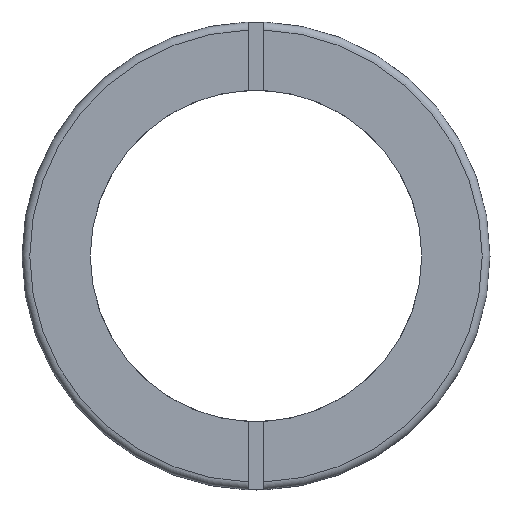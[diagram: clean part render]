
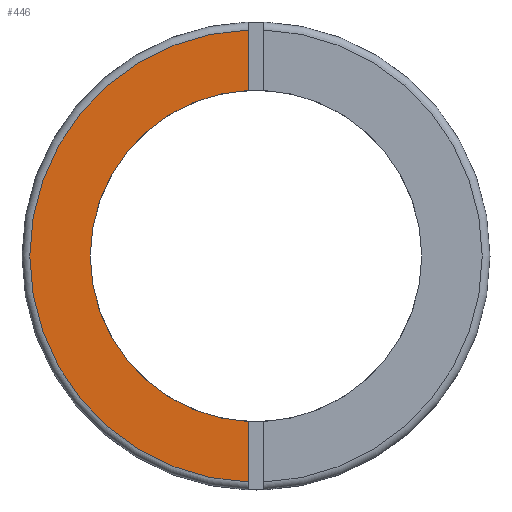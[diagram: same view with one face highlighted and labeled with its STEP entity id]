
A CAD part, left-side view. The second image highlights one B-rep face of the part: STEP entity #446.
In plain terms, the highlighted planar face has unit normal (-1, 0, 0).
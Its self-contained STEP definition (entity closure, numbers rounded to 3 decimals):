
#100=CARTESIAN_POINT('',(0.,0.5,-10.613));
#101=VERTEX_POINT('',#100);
#108=CARTESIAN_POINT('',(0.,0.5,-14.491));
#109=VERTEX_POINT('',#108);
#110=CARTESIAN_POINT('',(0.,0.5,0.));
#111=DIRECTION('',(0.,0.,1.));
#112=VECTOR('',#111,1.);
#113=LINE('',#110,#112);
#114=EDGE_CURVE('',#109,#101,#113,.T.);
#270=CARTESIAN_POINT('',(0.,0.5,14.491));
#271=VERTEX_POINT('',#270);
#293=CARTESIAN_POINT('',(0.,0.5,10.613));
#294=VERTEX_POINT('',#293);
#295=CARTESIAN_POINT('',(0.,0.5,0.));
#296=DIRECTION('',(0.,0.,1.));
#297=VECTOR('',#296,1.);
#298=LINE('',#295,#297);
#299=EDGE_CURVE('',#294,#271,#298,.T.);
#369=CARTESIAN_POINT('',(0.,0.,0.));
#370=DIRECTION('',(1.,0.,0.));
#371=DIRECTION('',(0.,1.,0.));
#372=AXIS2_PLACEMENT_3D('',#369,#370,#371);
#373=CIRCLE('',#372,14.5);
#406=CARTESIAN_POINT('',(0.,0.,0.));
#407=DIRECTION('',(1.,0.,0.));
#408=DIRECTION('',(0.,1.,0.));
#409=AXIS2_PLACEMENT_3D('',#406,#407,#408);
#410=CIRCLE('',#409,10.625);
#416=EDGE_CURVE('',#101,#294,#410,.T.);
#434=ORIENTED_EDGE('',*,*,#299,.T.);
#435=EDGE_CURVE('',#109,#271,#373,.T.);
#436=ORIENTED_EDGE('',*,*,#435,.F.);
#437=ORIENTED_EDGE('',*,*,#114,.T.);
#438=ORIENTED_EDGE('',*,*,#416,.T.);
#439=EDGE_LOOP('',(#434,#436,#437,#438));
#440=FACE_OUTER_BOUND('',#439,.T.);
#441=CARTESIAN_POINT('',(0.,12.562,0.));
#442=DIRECTION('',(-1.,0.,0.));
#443=DIRECTION('',(0.,-1.,0.));
#444=AXIS2_PLACEMENT_3D('',#441,#442,#443);
#445=PLANE('',#444);
#446=ADVANCED_FACE('',(#440),#445,.T.);
